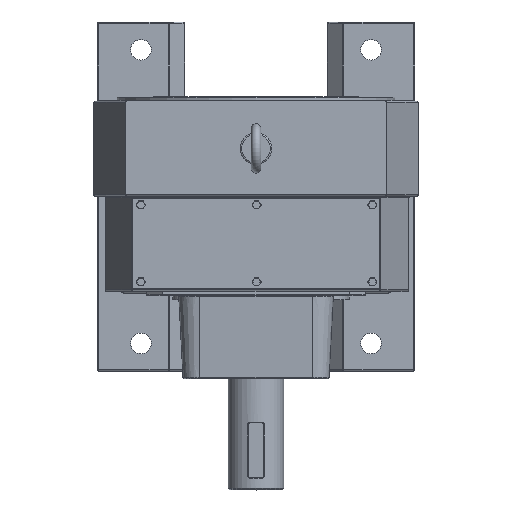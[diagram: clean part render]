
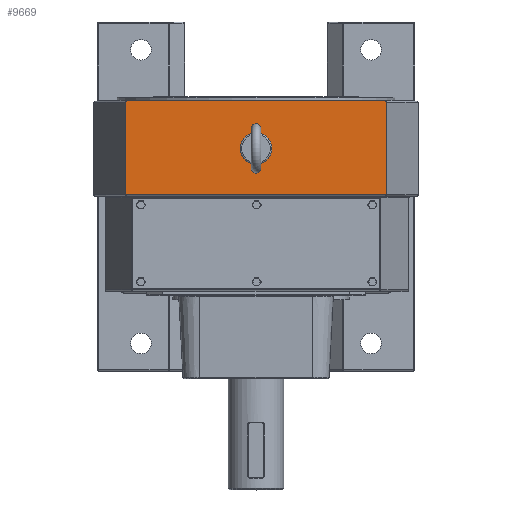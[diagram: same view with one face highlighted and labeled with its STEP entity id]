
A CAD part, top view. The second image highlights one B-rep face of the part: STEP entity #9669.
In plain terms, the highlighted planar face has unit normal (0, 0, 1).
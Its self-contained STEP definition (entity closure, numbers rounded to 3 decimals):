
#896=CARTESIAN_POINT('',(20.,60.,408.));
#897=VERTEX_POINT('',#896);
#898=CARTESIAN_POINT('',(0.,60.,408.));
#899=DIRECTION('',(0.0,0.0,-1.));
#900=DIRECTION('',(0.707,0.707,0.0));
#901=AXIS2_PLACEMENT_3D('',#898,#899,#900);
#902=CIRCLE('',#901,20.);
#903=EDGE_CURVE('',#897,#897,#902,.F.);
#2381=CARTESIAN_POINT('',(-164.5,118.,408.0));
#2382=VERTEX_POINT('',#2381);
#2383=CARTESIAN_POINT('',(-162.311,120.,408.0));
#2384=VERTEX_POINT('',#2383);
#2385=CARTESIAN_POINT('',(-162.311,118.,408.0));
#2386=DIRECTION('',(0.0,0.0,-1.0));
#2387=DIRECTION('',(-1.0,0.0,0.0));
#2388=AXIS2_PLACEMENT_3D('',#2385,#2386,#2387);
#2389=ELLIPSE('',#2388,2.189,2.);
#2390=EDGE_CURVE('',#2382,#2384,#2389,.T.);
#2628=CARTESIAN_POINT('',(162.311,120.,408.));
#2629=VERTEX_POINT('',#2628);
#2630=CARTESIAN_POINT('',(162.311,120.,408.));
#2631=DIRECTION('',(-1.0,0.0,0.0));
#2632=VECTOR('',#2631,324.623);
#2633=LINE('',#2630,#2632);
#2634=EDGE_CURVE('',#2629,#2384,#2633,.T.);
#2885=CARTESIAN_POINT('',(164.5,118.,408.0));
#2886=VERTEX_POINT('',#2885);
#2887=CARTESIAN_POINT('',(162.311,118.,408.));
#2888=DIRECTION('',(0.0,0.0,-1.0));
#2889=DIRECTION('',(1.0,0.0,0.0));
#2890=AXIS2_PLACEMENT_3D('',#2887,#2888,#2889);
#2891=ELLIPSE('',#2890,2.189,2.);
#2892=EDGE_CURVE('',#2629,#2886,#2891,.T.);
#3119=CARTESIAN_POINT('',(-164.5,2.0,408.0));
#3120=VERTEX_POINT('',#3119);
#3151=CARTESIAN_POINT('',(164.5,2.,408.0));
#3152=VERTEX_POINT('',#3151);
#3160=CARTESIAN_POINT('',(164.5,2.,408.));
#3161=DIRECTION('',(-1.0,0.0,0.0));
#3162=VECTOR('',#3161,329.);
#3163=LINE('',#3160,#3162);
#3164=EDGE_CURVE('',#3152,#3120,#3163,.T.);
#9643=CARTESIAN_POINT('',(0.0,0.0,408.));
#9644=DIRECTION('',(0.0,0.0,1.0));
#9645=DIRECTION('',(1.0,0.0,0.0));
#9646=AXIS2_PLACEMENT_3D('',#9643,#9644,#9645);
#9647=PLANE('',#9646);
#9648=ORIENTED_EDGE('',*,*,#2390,.F.);
#9649=CARTESIAN_POINT('',(-164.5,2.0,408.0));
#9650=DIRECTION('',(0.0,1.0,0.0));
#9651=VECTOR('',#9650,116.);
#9652=LINE('',#9649,#9651);
#9653=EDGE_CURVE('',#3120,#2382,#9652,.T.);
#9654=ORIENTED_EDGE('',*,*,#9653,.F.);
#9655=ORIENTED_EDGE('',*,*,#3164,.F.);
#9656=CARTESIAN_POINT('',(164.5,2.,408.0));
#9657=DIRECTION('',(0.0,1.0,0.0));
#9658=VECTOR('',#9657,116.);
#9659=LINE('',#9656,#9658);
#9660=EDGE_CURVE('',#3152,#2886,#9659,.T.);
#9661=ORIENTED_EDGE('',*,*,#9660,.T.);
#9662=ORIENTED_EDGE('',*,*,#2892,.F.);
#9663=ORIENTED_EDGE('',*,*,#2634,.T.);
#9664=EDGE_LOOP('',(#9648,#9654,#9655,#9661,#9662,#9663));
#9665=FACE_OUTER_BOUND('',#9664,.T.);
#9666=ORIENTED_EDGE('',*,*,#903,.F.);
#9667=EDGE_LOOP('',(#9666));
#9668=FACE_BOUND('',#9667,.T.);
#9669=ADVANCED_FACE('',(#9665,#9668),#9647,.T.);
